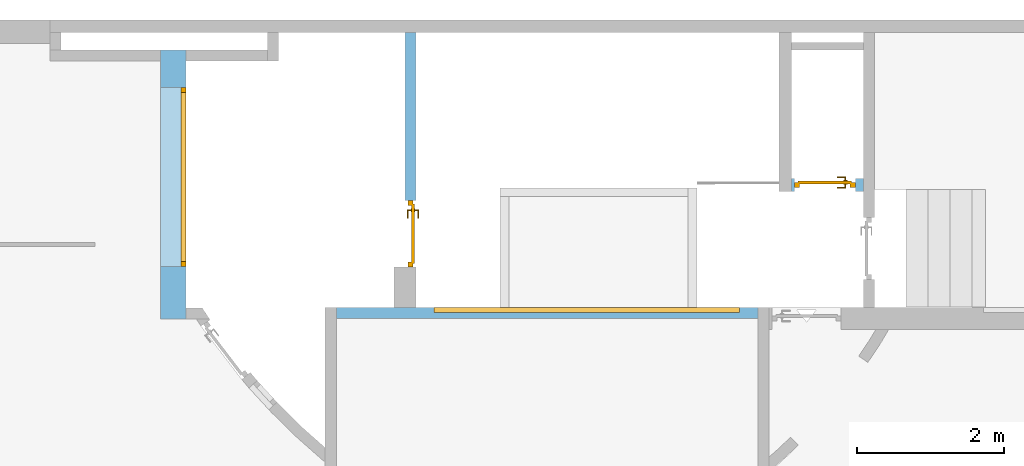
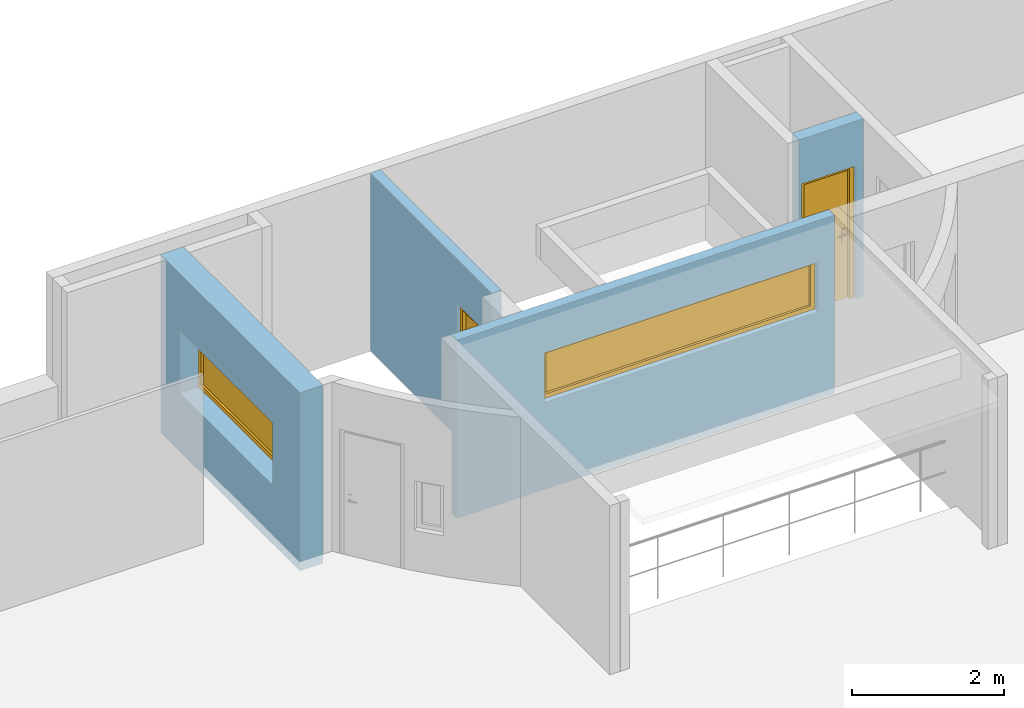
"""IFC4 building model written with IfcOpenShell, lengths in metres."""

from ifc_helpers import new_model, entity, si_unit, converted_unit, derived_unit, frame, frame_2d, origin, origin_with_axes, place, context, subcontext, project, spatial, polyline, rectangle, outline, extrude, closed_shell, open_shell, faceted_brep, surface_model, source, transform, mapped, material, layer, layer_set, layer_usage, element, fill, save


model = new_model("IFC4")

# Units and contexts
model_context = context("Model", 3, precision=1e-05, world=origin())
body_context = subcontext(model_context, "Body", "Model", "MODEL_VIEW")
ifc_project = project(units=[si_unit("LENGTHUNIT", "METRE"), si_unit("AREAUNIT", "SQUARE_METRE"), si_unit("VOLUMEUNIT", "CUBIC_METRE"), si_unit("MASSUNIT", "GRAM", prefix="KILO"), converted_unit("PLANEANGLEUNIT", "DEGREE", entity("IfcPlaneAngleMeasure", 0.0174532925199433), si_unit("PLANEANGLEUNIT", "RADIAN"), dimensions=[0, 0, 0, 0, 0, 0, 0]), derived_unit("THERMALTRANSMITTANCEUNIT", [(si_unit("POWERUNIT", "WATT"), 1), (si_unit("THERMODYNAMICTEMPERATUREUNIT", "KELVIN"), -1), (si_unit("LENGTHUNIT", "METRE"), -2)]), derived_unit("VOLUMETRICFLOWRATEUNIT", [(si_unit("LENGTHUNIT", "METRE"), 3), (converted_unit("TIMEUNIT", "hour", entity("IfcTimeMeasure", 3600.0), si_unit("TIMEUNIT", "SECOND"), dimensions=[0, 0, 1, 0, 0, 0, 0]), -1), (si_unit("LENGTHUNIT", "METRE"), -1)])], contexts=[model_context])

# Building, storeys
building_placement = place(None, origin())
building = spatial("IfcBuilding", under=ifc_project, at=building_placement, Name="HABITATGE PLURIFAMILIAR", CompositionType="ELEMENT")
storey_1_placement = place(building_placement, frame((0.0, 0.0, 21.2)))
storey_1 = spatial("IfcBuildingStorey", under=building, at=storey_1_placement, Name="PLANTA SOTACOBERTA", CompositionType="ELEMENT", Elevation=21.2)
storey_2_placement = place(storey_1_placement, origin())
storey_2 = spatial("IfcBuildingStorey", under=storey_1, at=storey_2_placement, Name="NOU", CompositionType="PARTIAL")

# Wall, opening, window
ifc_material_1 = material()
ifc_layer_1 = layer(ifc_material_1, 0.15)
ifc_layer_set_1 = layer_set([ifc_layer_1])
ifc_layer_usage_1 = layer_usage(ifc_layer_set_1, "AXIS2", "POSITIVE", 0.0)
wall_1_placement = place(storey_2_placement, frame((409.744883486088, 24.1595914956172, 0.0)))
wall_1 = element("IfcWall", 1, at=wall_1_placement, inside=storey_2, material=ifc_layer_usage_1, Name="Mur PSC", context=body_context, shape_type="SweptSolid", body=[
    extrude(rectangle(XDim=5.74204814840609, YDim=0.15, at=frame_2d((2.87102407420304, 0.075), x_axis=(1.0, 0.0))), origin_with_axes(), (0.0, 0.0, 1.0), 2.87),
])
opening_1_placement = place(wall_1_placement, frame((1.33204814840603, 0.0, 1.4), z_axis=(0.0, 1.0, 0.0), x_axis=(0.0, 0.0, 1.0)))
opening_1 = element("IfcOpeningElement", 2, at=opening_1_placement, cuts=wall_1, Name="Vano ventana", ObjectType="Opening", context=body_context, shape_type="SweptSolid", body=[
    extrude(outline(polyline([(0.8, 4.16), (0.8, 0.0), (0.0, 0.0), (0.0, 4.16), (0.8, 4.16)])), origin_with_axes(), (0.0, 0.0, 1.0), 0.15),
])
shared_shape_1 = source(origin_with_axes(), body_context, "Body", "SurfaceModel", [
    surface_model("IfcShellBasedSurfaceModel", [(0.0, 0.0, 0.8), (0.07, 0.0, 0.8), (0.07, 0.0, 0.0), (0.0, 0.0, 0.0), (0.0, 0.07, 0.0), (0.07, 0.07, 0.0), (0.07, 0.07, 0.8), (0.0, 0.07, 0.8)], [closed_shell([[[0, 1, 2, 3]], [[4, 5, 6, 7]], [[3, 4, 7, 0]], [[2, 5, 4, 3]], [[1, 6, 5, 2]], [[0, 7, 6, 1]]], orient=[[False], [False], [False], [False], [False], [False]])]),
    surface_model("IfcShellBasedSurfaceModel", [(4.09, 0.0, 0.8), (4.16, 0.0, 0.8), (4.16, 0.0, 0.0), (4.09, 0.0, 0.0), (4.09, 0.07, 0.0), (4.16, 0.07, 0.0), (4.16, 0.07, 0.8), (4.09, 0.07, 0.8)], [closed_shell([[[0, 1, 2, 3]], [[4, 5, 6, 7]], [[3, 4, 7, 0]], [[2, 5, 4, 3]], [[1, 6, 5, 2]], [[0, 7, 6, 1]]], orient=[[False], [False], [False], [False], [False], [False]])]),
    surface_model("IfcShellBasedSurfaceModel", [(0.07, 0.0, 0.07), (4.09, 0.0, 0.07), (4.09, 0.0, 0.0), (0.07, 0.0, 0.0), (0.07, 0.07, 0.0), (4.09, 0.07, 0.0), (4.09, 0.07, 0.07), (0.07, 0.07, 0.07)], [closed_shell([[[0, 1, 2, 3]], [[4, 5, 6, 7]], [[3, 4, 7, 0]], [[2, 5, 4, 3]], [[1, 6, 5, 2]], [[0, 7, 6, 1]]], orient=[[False], [False], [False], [False], [False], [False]])]),
    surface_model("IfcShellBasedSurfaceModel", [(0.07, 0.0, 0.8), (4.09, 0.0, 0.8), (4.09, 0.0, 0.73), (0.07, 0.0, 0.73), (0.07, 0.07, 0.73), (4.09, 0.07, 0.73), (4.09, 0.07, 0.8), (0.07, 0.07, 0.8)], [closed_shell([[[0, 1, 2, 3]], [[4, 5, 6, 7]], [[3, 4, 7, 0]], [[2, 5, 4, 3]], [[1, 6, 5, 2]], [[0, 7, 6, 1]]], orient=[[False], [False], [False], [False], [False], [False]])]),
    surface_model("IfcShellBasedSurfaceModel", [(0.07, 0.035, 0.07), (0.07, 0.035, 0.73), (4.09, 0.035, 0.73), (4.09, 0.035, 0.07)], [open_shell([[[0, 1, 2, 3]]], orient=[[False]])]),
])
window_1_placement = place(opening_1_placement, frame((0.0, 0.0, 0.08), z_axis=(1.0, 0.0, 0.0), x_axis=(0.0, 1.0, 0.0)))
window_1 = element("IfcWindow", 3, at=window_1_placement, inside=storey_2, Name="Finestra PSC", OverallHeight=0.8, OverallWidth=4.16, PartitioningType="USERDEFINED", PredefinedType="WINDOW", context=body_context, shape_type="MappedRepresentation", body=[
    mapped(shared_shape_1, transform((0.0, 0.0, 0.0), x_axis=(1.0, 0.0, 0.0), y_axis=(0.0, 1.0, 0.0), z_axis=(0.0, 0.0, 1.0), scale=1.0)),
])
fill(opening_1, window_1)

ifc_material_2 = material()
ifc_layer_2 = layer(ifc_material_2, 0.35)
ifc_layer_set_2 = layer_set([ifc_layer_2])
ifc_layer_usage_2 = layer_usage(ifc_layer_set_2, "AXIS2", "POSITIVE", 0.0)
wall_2_placement = place(storey_2_placement, frame((407.346855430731, 27.8195954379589, 0.0), z_axis=(0.0, 0.0, 1.0), x_axis=(0.0, -1.0, 0.0)))
wall_2 = element("IfcWall", 4, at=wall_2_placement, inside=storey_2, material=ifc_layer_usage_2, Name="Mur PSC", context=body_context, shape_type="SweptSolid", body=[
    extrude(rectangle(XDim=3.67000394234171, YDim=0.35, at=frame_2d((1.83500197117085, 0.175), x_axis=(1.0, 0.0))), origin_with_axes(), (0.0, 0.0, 1.0), 2.87),
])
opening_2_placement = place(wall_2_placement, frame((0.510003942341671, 0.0, 0.95), z_axis=(0.0, 1.0, 0.0), x_axis=(0.0, 0.0, 1.0)))
opening_2 = element("IfcOpeningElement", 5, at=opening_2_placement, cuts=wall_2, Name="Vano finestra PSC", ObjectType="Opening", context=body_context, shape_type="SweptSolid", body=[
    extrude(outline(polyline([(1.0, 2.44), (1.0, 0.0), (0.0, 0.0), (0.0, 2.44), (1.0, 2.44)])), origin_with_axes(), (0.0, 0.0, 1.0), 0.35),
])
shared_shape_2 = source(origin_with_axes(), body_context, "Body", "SurfaceModel", [
    surface_model("IfcShellBasedSurfaceModel", [(2.44000000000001, 0.0, 1.0), (2.44000000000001, 0.0, 0.0), (2.37000000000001, 0.0, 0.0), (2.37000000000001, 0.0, 1.0), (2.44000000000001, 0.0699999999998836, 0.0), (2.44000000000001, 0.0699999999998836, 1.0), (2.37000000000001, 0.0699999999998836, 1.0), (2.37000000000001, 0.0699999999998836, 0.0)], [closed_shell([[[0, 1, 2, 3]], [[4, 5, 6, 7]], [[1, 0, 5, 4]], [[2, 1, 4, 7]], [[3, 2, 7, 6]], [[0, 3, 6, 5]]], orient=[[False], [False], [False], [False], [False], [False]])]),
    surface_model("IfcShellBasedSurfaceModel", [(0.0700000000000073, 0.0, 1.0), (0.0700000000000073, 0.0, 0.0), (0.0, 0.0, 0.0), (0.0, 0.0, 1.0), (0.0700000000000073, 0.0699999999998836, 0.0), (0.0700000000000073, 0.0699999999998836, 1.0), (0.0, 0.0699999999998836, 1.0), (0.0, 0.0699999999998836, 0.0)], [closed_shell([[[0, 1, 2, 3]], [[4, 5, 6, 7]], [[1, 0, 5, 4]], [[2, 1, 4, 7]], [[3, 2, 7, 6]], [[0, 3, 6, 5]]], orient=[[False], [False], [False], [False], [False], [False]])]),
    surface_model("IfcShellBasedSurfaceModel", [(2.37000000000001, 0.0, 0.07), (2.37000000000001, 0.0, 0.0), (0.0700000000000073, 0.0, 0.0), (0.0700000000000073, 0.0, 0.07), (2.37000000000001, 0.0699999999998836, 0.0), (2.37000000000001, 0.0699999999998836, 0.07), (0.0700000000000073, 0.0699999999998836, 0.07), (0.0700000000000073, 0.0699999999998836, 0.0)], [closed_shell([[[0, 1, 2, 3]], [[4, 5, 6, 7]], [[1, 0, 5, 4]], [[2, 1, 4, 7]], [[3, 2, 7, 6]], [[0, 3, 6, 5]]], orient=[[False], [False], [False], [False], [False], [False]])]),
    surface_model("IfcShellBasedSurfaceModel", [(2.37000000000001, 0.0, 1.0), (2.37000000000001, 0.0, 0.93), (0.0700000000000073, 0.0, 0.93), (0.0700000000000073, 0.0, 1.0), (2.37000000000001, 0.0699999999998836, 0.93), (2.37000000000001, 0.0699999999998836, 1.0), (0.0700000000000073, 0.0699999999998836, 1.0), (0.0700000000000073, 0.0699999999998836, 0.93)], [closed_shell([[[0, 1, 2, 3]], [[4, 5, 6, 7]], [[1, 0, 5, 4]], [[2, 1, 4, 7]], [[3, 2, 7, 6]], [[0, 3, 6, 5]]], orient=[[False], [False], [False], [False], [False], [False]])]),
    surface_model("IfcShellBasedSurfaceModel", [(2.37000000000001, 0.0349999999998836, 0.07), (0.0700000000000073, 0.0349999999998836, 0.07), (0.0700000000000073, 0.0349999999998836, 0.93), (2.37000000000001, 0.0349999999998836, 0.93)], [open_shell([[[0, 1, 2, 3]]], orient=[[False]])]),
])
window_2_placement = place(opening_2_placement, frame((0.0, 0.0, 0.28), z_axis=(1.0, 0.0, 0.0), x_axis=(0.0, 1.0, 0.0)))
window_2 = element("IfcWindow", 6, at=window_2_placement, inside=storey_2, Name="Finestra PSC", OverallHeight=1.0, OverallWidth=2.44, PartitioningType="USERDEFINED", PredefinedType="WINDOW", context=body_context, shape_type="MappedRepresentation", body=[
    mapped(shared_shape_2, transform((0.0, 0.0, 0.0), x_axis=(1.0, 0.0, 0.0), y_axis=(0.0, 1.0, 0.0), z_axis=(0.0, 0.0, 1.0), scale=1.0)),
])
fill(opening_2, window_2)

# Wall, opening, door
ifc_material_3 = material()
ifc_layer_3 = layer(ifc_material_3, 0.15)
ifc_layer_set_3 = layer_set([ifc_layer_3])
ifc_layer_usage_3 = layer_usage(ifc_layer_set_3, "AXIS2", "POSITIVE", 0.0)
wall_3_placement = place(storey_2_placement, frame((410.826931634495, 24.859595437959, 0.0), z_axis=(0.0, 0.0, 1.0), x_axis=(0.0, 1.0, 0.0)))
wall_3 = element("IfcWall", 7, at=wall_3_placement, inside=storey_2, material=ifc_layer_usage_3, Name="Evans PSC", context=body_context, shape_type="SweptSolid", body=[
    extrude(rectangle(XDim=3.19865246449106, YDim=0.15, at=frame_2d((1.59932623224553, 0.075), x_axis=(1.0, 0.0))), origin_with_axes(), (0.0, 0.0, 1.0), 2.87),
])
opening_3_placement = place(wall_3_placement, frame((0.909996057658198, 0.15, 0.0), z_axis=(0.0, -1.0, 0.0), x_axis=(0.0, 0.0, 1.0)))
opening_3 = element("IfcOpeningElement", 8, at=opening_3_placement, cuts=wall_3, Name="Vano porta PSC", ObjectType="Opening", context=body_context, shape_type="SweptSolid", body=[
    extrude(outline(polyline([(2.15, 0.909996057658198), (2.15, 0.0), (0.0, 0.0), (0.0, 0.909996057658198), (2.15, 0.909996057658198)])), origin_with_axes(), (0.0, 0.0, 1.0), 0.15),
])
shared_shape_3 = source(origin_with_axes(), body_context, "Body", "Brep", [
    faceted_brep([(0.0, 0.0699999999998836, 2.15), (0.0, 0.0699999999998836, 0.0), (0.0700000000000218, 0.0699999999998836, 0.0), (0.0700000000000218, 0.0699999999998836, 2.15), (0.0, 0.0, 0.0), (0.0, 0.0, 2.15), (0.0700000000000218, 0.0, 2.15), (0.0700000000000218, 0.0, 0.0)], [[[0, 1, 2, 3]], [[4, 5, 6, 7]], [[1, 0, 5, 4]], [[2, 1, 4, 7]], [[3, 2, 7, 6]], [[0, 3, 6, 5]]], orient=[[False], [False], [False], [False], [False], [False]]),
    faceted_brep([(0.839996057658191, 0.0699999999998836, 2.15), (0.839996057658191, 0.0699999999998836, 0.0), (0.909996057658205, 0.0699999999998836, 0.0), (0.909996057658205, 0.0699999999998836, 2.15), (0.839996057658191, 0.0, 0.0), (0.839996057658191, 0.0, 2.15), (0.909996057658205, 0.0, 2.15), (0.909996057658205, 0.0, 0.0)], [[[0, 1, 2, 3]], [[4, 5, 6, 7]], [[1, 0, 5, 4]], [[2, 1, 4, 7]], [[3, 2, 7, 6]], [[0, 3, 6, 5]]], orient=[[False], [False], [False], [False], [False], [False]]),
    faceted_brep([(0.0700000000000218, 0.0699999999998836, 2.15), (0.0700000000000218, 0.0699999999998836, 2.08), (0.839996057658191, 0.0699999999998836, 2.08), (0.839996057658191, 0.0699999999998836, 2.15), (0.0700000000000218, 0.0, 2.08), (0.0700000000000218, 0.0, 2.15), (0.839996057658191, 0.0, 2.15), (0.839996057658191, 0.0, 2.08)], [[[0, 1, 2, 3]], [[4, 5, 6, 7]], [[1, 0, 5, 4]], [[2, 1, 4, 7]], [[3, 2, 7, 6]], [[0, 3, 6, 5]]], orient=[[False], [False], [False], [False], [False], [False]]),
    faceted_brep([(0.0500000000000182, 0.0899999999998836, 2.1), (0.0500000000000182, 0.0899999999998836, 0.0), (0.859996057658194, 0.0899999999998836, 0.0), (0.859996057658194, 0.0899999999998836, 2.1), (0.0500000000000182, 0.0499999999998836, 0.0), (0.0500000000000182, 0.0499999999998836, 2.1), (0.859996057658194, 0.0499999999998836, 2.1), (0.859996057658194, 0.0499999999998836, 0.0)], [[[0, 1, 2, 3]], [[4, 5, 6, 7]], [[1, 0, 5, 4]], [[2, 1, 4, 7]], [[3, 2, 7, 6]], [[0, 3, 6, 5]]], orient=[[False], [False], [False], [False], [False], [False]]),
    faceted_brep([(0.110000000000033, 0.0499999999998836, 1.125), (0.110000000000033, 0.0499999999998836, 0.91), (0.160000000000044, 0.0499999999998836, 0.91), (0.160000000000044, 0.0499999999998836, 1.125), (0.110000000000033, 0.0399999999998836, 0.91), (0.110000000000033, 0.0399999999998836, 1.125), (0.160000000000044, 0.0399999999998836, 1.125), (0.160000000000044, 0.0399999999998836, 0.91)], [[[0, 1, 2, 3]], [[4, 5, 6, 7]], [[1, 0, 5, 4]], [[2, 1, 4, 7]], [[3, 2, 7, 6]], [[0, 3, 6, 5]]], orient=[[False], [False], [False], [False], [False], [False]]),
    faceted_brep([(0.135000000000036, 0.0399999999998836, 1.06), (0.130000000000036, 0.0399999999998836, 1.05866025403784), (0.126339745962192, 0.0399999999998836, 1.055), (0.125000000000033, 0.0399999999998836, 1.05), (0.126339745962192, 0.0399999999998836, 1.045), (0.130000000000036, 0.0399999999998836, 1.04133974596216), (0.135000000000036, 0.0399999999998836, 1.04), (0.140000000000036, 0.0399999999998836, 1.04133974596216), (0.143660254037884, 0.0399999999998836, 1.045), (0.14500000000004, 0.0399999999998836, 1.05), (0.143660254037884, 0.0399999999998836, 1.055), (0.140000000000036, 0.0399999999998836, 1.05866025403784), (0.135000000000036, 0.0, 1.06), (0.130000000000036, -0.00500000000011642, 1.05866025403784), (0.126339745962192, -0.00866025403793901, 1.055), (0.125000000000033, -0.0100000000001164, 1.05), (0.126339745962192, -0.00866025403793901, 1.045), (0.130000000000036, -0.00500000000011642, 1.04133974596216), (0.135000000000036, 0.0, 1.04), (0.140000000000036, 0.00499999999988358, 1.04133974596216), (0.143660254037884, 0.00866025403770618, 1.045), (0.14500000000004, 0.00999999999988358, 1.05), (0.143660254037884, 0.00866025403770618, 1.055), (0.140000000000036, 0.00499999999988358, 1.05866025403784), (0.250000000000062, 0.0, 1.06), (0.250000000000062, 0.00499999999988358, 1.05866025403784), (0.250000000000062, 0.00866025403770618, 1.055), (0.250000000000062, 0.00999999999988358, 1.05), (0.250000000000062, 0.00866025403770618, 1.045), (0.250000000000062, 0.00499999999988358, 1.04133974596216), (0.250000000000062, 0.0, 1.04), (0.250000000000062, -0.00500000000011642, 1.04133974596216), (0.250000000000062, -0.00866025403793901, 1.045), (0.250000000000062, -0.0100000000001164, 1.05), (0.250000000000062, -0.00866025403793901, 1.055), (0.250000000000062, -0.00500000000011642, 1.05866025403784)], [[[0, 1, 2, 3, 4, 5, 6, 7, 8, 9, 10, 11]], [[0, 12, 13, 1]], [[1, 13, 14, 2]], [[2, 14, 15, 3]], [[3, 15, 16, 4]], [[4, 16, 17, 5]], [[5, 17, 18, 6]], [[6, 18, 19, 7]], [[7, 19, 20, 8]], [[8, 20, 21, 9]], [[9, 21, 22, 10]], [[10, 22, 23, 11]], [[11, 23, 12, 0]], [[24, 25, 26, 27, 28, 29, 30, 31, 32, 33, 34, 35]], [[12, 24, 35, 13]], [[13, 35, 34, 14]], [[14, 34, 33, 15]], [[15, 33, 32, 16]], [[16, 32, 31, 17]], [[17, 31, 30, 18]], [[18, 30, 29, 19]], [[19, 29, 28, 20]], [[20, 28, 27, 21]], [[21, 27, 26, 22]], [[22, 26, 25, 23]], [[23, 25, 24, 12]]], orient=[[False], [False], [False], [False], [False], [False], [False], [False], [False], [False], [False], [False], [False], [False], [False], [False], [False], [False], [False], [False], [False], [False], [False], [False], [False], [False]]),
    faceted_brep([(0.110000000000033, 0.0899999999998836, 1.125), (0.160000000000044, 0.0899999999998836, 1.125), (0.160000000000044, 0.0899999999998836, 0.91), (0.110000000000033, 0.0899999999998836, 0.91), (0.110000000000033, 0.0999999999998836, 0.91), (0.160000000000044, 0.0999999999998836, 0.91), (0.160000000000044, 0.0999999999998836, 1.125), (0.110000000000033, 0.0999999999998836, 1.125)], [[[0, 1, 2, 3]], [[4, 5, 6, 7]], [[3, 4, 7, 0]], [[2, 5, 4, 3]], [[1, 6, 5, 2]], [[0, 7, 6, 1]]], orient=[[False], [False], [False], [False], [False], [False]]),
    faceted_brep([(0.135000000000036, 0.0999999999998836, 1.06), (0.140000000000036, 0.0999999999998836, 1.05866025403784), (0.143660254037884, 0.0999999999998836, 1.055), (0.14500000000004, 0.0999999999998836, 1.05), (0.143660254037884, 0.0999999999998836, 1.045), (0.140000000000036, 0.0999999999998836, 1.04133974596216), (0.135000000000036, 0.0999999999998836, 1.04), (0.130000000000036, 0.0999999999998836, 1.04133974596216), (0.126339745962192, 0.0999999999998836, 1.045), (0.125000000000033, 0.0999999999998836, 1.05), (0.126339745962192, 0.0999999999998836, 1.055), (0.130000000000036, 0.0999999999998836, 1.05866025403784), (0.130000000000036, 0.144999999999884, 1.05866025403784), (0.135000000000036, 0.139999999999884, 1.06), (0.126339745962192, 0.148660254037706, 1.055), (0.125000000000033, 0.149999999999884, 1.05), (0.126339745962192, 0.148660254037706, 1.045), (0.130000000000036, 0.144999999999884, 1.04133974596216), (0.135000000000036, 0.139999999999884, 1.04), (0.140000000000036, 0.134999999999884, 1.04133974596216), (0.143660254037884, 0.131339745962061, 1.045), (0.14500000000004, 0.129999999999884, 1.05), (0.143660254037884, 0.131339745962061, 1.055), (0.140000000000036, 0.134999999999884, 1.05866025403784), (0.250000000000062, 0.139999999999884, 1.06), (0.250000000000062, 0.144999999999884, 1.05866025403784), (0.250000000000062, 0.148660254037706, 1.055), (0.250000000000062, 0.149999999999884, 1.05), (0.250000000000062, 0.148660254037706, 1.045), (0.250000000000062, 0.144999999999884, 1.04133974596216), (0.250000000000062, 0.139999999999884, 1.04), (0.250000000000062, 0.134999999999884, 1.04133974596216), (0.250000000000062, 0.131339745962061, 1.045), (0.250000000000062, 0.129999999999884, 1.05), (0.250000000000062, 0.131339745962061, 1.055), (0.250000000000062, 0.134999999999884, 1.05866025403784)], [[[0, 1, 2, 3, 4, 5, 6, 7, 8, 9, 10, 11]], [[0, 11, 12, 13]], [[11, 10, 14, 12]], [[10, 9, 15, 14]], [[9, 8, 16, 15]], [[8, 7, 17, 16]], [[7, 6, 18, 17]], [[6, 5, 19, 18]], [[5, 4, 20, 19]], [[4, 3, 21, 20]], [[3, 2, 22, 21]], [[2, 1, 23, 22]], [[1, 0, 13, 23]], [[24, 25, 26, 27, 28, 29, 30, 31, 32, 33, 34, 35]], [[13, 12, 25, 24]], [[12, 14, 26, 25]], [[14, 15, 27, 26]], [[15, 16, 28, 27]], [[16, 17, 29, 28]], [[17, 18, 30, 29]], [[18, 19, 31, 30]], [[19, 20, 32, 31]], [[20, 21, 33, 32]], [[21, 22, 34, 33]], [[22, 23, 35, 34]], [[23, 13, 24, 35]]], orient=[[False], [False], [False], [False], [False], [False], [False], [False], [False], [False], [False], [False], [False], [False], [False], [False], [False], [False], [False], [False], [False], [False], [False], [False], [False], [False]]),
])
door_1_placement = place(opening_3_placement, frame((0.0, 0.0, 0.04), z_axis=(1.0, 0.0, 0.0), x_axis=(0.0, 1.0, 0.0)))
door_1 = element("IfcDoor", 9, at=door_1_placement, inside=storey_2, Name="Porta PSC", OperationType="USERDEFINED", OverallHeight=2.15, OverallWidth=0.91, PredefinedType="DOOR", context=body_context, shape_type="MappedRepresentation", body=[
    mapped(shared_shape_3, transform((0.0, 0.0, 0.0), x_axis=(1.0, 0.0, 0.0), y_axis=(0.0, 1.0, 0.0), z_axis=(0.0, 0.0, 1.0), scale=1.0)),
])
fill(opening_3, door_1)

ifc_material_4 = material()
ifc_layer_4 = layer(ifc_material_4, 0.18)
ifc_layer_set_4 = layer_set([ifc_layer_4])
ifc_layer_usage_4 = layer_usage(ifc_layer_set_4, "AXIS2", "POSITIVE", 0.0)
wall_4_placement = place(storey_2_placement, frame((415.946931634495, 25.8895914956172, 0.0)))
wall_4 = element("IfcWall", 10, at=wall_4_placement, inside=storey_2, material=ifc_layer_usage_4, Name="Evans PSC", context=body_context, shape_type="SweptSolid", body=[
    extrude(rectangle(XDim=0.979999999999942, YDim=0.18, at=frame_2d((0.489999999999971, 0.09), x_axis=(1.0, 0.0))), origin_with_axes(), (0.0, 0.0, 1.0), 2.87),
])
opening_4_placement = place(wall_4_placement, frame((0.0399999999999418, 0.0, 0.0), z_axis=(0.0, 1.0, 0.0), x_axis=(0.0, 0.0, 1.0)))
opening_4 = element("IfcOpeningElement", 11, at=opening_4_placement, cuts=wall_4, Name="Vano porta PSC", ObjectType="Opening", context=body_context, shape_type="SweptSolid", body=[
    extrude(outline(polyline([(2.15, 0.83), (2.15, 0.0), (0.0, 0.0), (0.0, 0.83), (2.15, 0.83)])), origin_with_axes(), (0.0, 0.0, 1.0), 0.18),
])
shared_shape_4 = source(origin_with_axes(), body_context, "Body", "Brep", [
    faceted_brep([(0.83, 0.07, 2.15), (0.76, 0.07, 2.15), (0.76, 0.07, 0.0), (0.83, 0.07, 0.0), (0.83, 0.0, 0.0), (0.76, 0.0, 0.0), (0.76, 0.0, 2.15), (0.83, 0.0, 2.15)], [[[0, 1, 2, 3]], [[4, 5, 6, 7]], [[3, 4, 7, 0]], [[2, 5, 4, 3]], [[1, 6, 5, 2]], [[0, 7, 6, 1]]], orient=[[False], [False], [False], [False], [False], [False]]),
    faceted_brep([(0.07, 0.07, 2.15), (0.0, 0.07, 2.15), (0.0, 0.07, 0.0), (0.07, 0.07, 0.0), (0.07, 0.0, 0.0), (0.0, 0.0, 0.0), (0.0, 0.0, 2.15), (0.07, 0.0, 2.15)], [[[0, 1, 2, 3]], [[4, 5, 6, 7]], [[3, 4, 7, 0]], [[2, 5, 4, 3]], [[1, 6, 5, 2]], [[0, 7, 6, 1]]], orient=[[False], [False], [False], [False], [False], [False]]),
    faceted_brep([(0.76, 0.07, 2.15), (0.07, 0.07, 2.15), (0.07, 0.07, 2.08), (0.76, 0.07, 2.08), (0.76, 0.0, 2.08), (0.07, 0.0, 2.08), (0.07, 0.0, 2.15), (0.76, 0.0, 2.15)], [[[0, 1, 2, 3]], [[4, 5, 6, 7]], [[3, 4, 7, 0]], [[2, 5, 4, 3]], [[1, 6, 5, 2]], [[0, 7, 6, 1]]], orient=[[False], [False], [False], [False], [False], [False]]),
    faceted_brep([(0.78, 0.09, 2.1), (0.05, 0.09, 2.1), (0.05, 0.09, 0.0), (0.78, 0.09, 0.0), (0.78, 0.05, 0.0), (0.05, 0.05, 0.0), (0.05, 0.05, 2.1), (0.78, 0.05, 2.1)], [[[0, 1, 2, 3]], [[4, 5, 6, 7]], [[3, 4, 7, 0]], [[2, 5, 4, 3]], [[1, 6, 5, 2]], [[0, 7, 6, 1]]], orient=[[False], [False], [False], [False], [False], [False]]),
    faceted_brep([(0.72, 0.05, 1.125), (0.67, 0.05, 1.125), (0.67, 0.05, 0.91), (0.72, 0.05, 0.91), (0.72, 0.04, 0.91), (0.67, 0.04, 0.91), (0.67, 0.04, 1.125), (0.72, 0.04, 1.125)], [[[0, 1, 2, 3]], [[4, 5, 6, 7]], [[3, 4, 7, 0]], [[2, 5, 4, 3]], [[1, 6, 5, 2]], [[0, 7, 6, 1]]], orient=[[False], [False], [False], [False], [False], [False]]),
    faceted_brep([(0.695, 0.04, 1.06), (0.69, 0.04, 1.05866025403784), (0.686339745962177, 0.04, 1.055), (0.685, 0.04, 1.05), (0.686339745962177, 0.04, 1.045), (0.69, 0.04, 1.04133974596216), (0.695, 0.04, 1.04), (0.7, 0.04, 1.04133974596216), (0.703660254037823, 0.04, 1.045), (0.705, 0.04, 1.05), (0.703660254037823, 0.04, 1.055), (0.7, 0.04, 1.05866025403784), (0.7, -0.005, 1.05866025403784), (0.695, 0.0, 1.06), (0.703660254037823, -0.00866025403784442, 1.055), (0.705, -0.01, 1.05), (0.703660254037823, -0.00866025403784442, 1.045), (0.7, -0.005, 1.04133974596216), (0.695, 0.0, 1.04), (0.69, 0.005, 1.04133974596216), (0.686339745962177, 0.00866025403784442, 1.045), (0.685, 0.01, 1.05), (0.686339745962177, 0.00866025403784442, 1.055), (0.69, 0.005, 1.05866025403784), (0.58, 0.0, 1.06), (0.58, -0.005, 1.05866025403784), (0.58, -0.00866025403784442, 1.055), (0.58, -0.01, 1.05), (0.58, -0.00866025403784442, 1.045), (0.58, -0.005, 1.04133974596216), (0.58, 0.0, 1.04), (0.58, 0.005, 1.04133974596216), (0.58, 0.00866025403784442, 1.045), (0.58, 0.01, 1.05), (0.58, 0.00866025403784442, 1.055), (0.58, 0.005, 1.05866025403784)], [[[0, 1, 2, 3, 4, 5, 6, 7, 8, 9, 10, 11]], [[0, 11, 12, 13]], [[11, 10, 14, 12]], [[10, 9, 15, 14]], [[9, 8, 16, 15]], [[8, 7, 17, 16]], [[7, 6, 18, 17]], [[6, 5, 19, 18]], [[5, 4, 20, 19]], [[4, 3, 21, 20]], [[3, 2, 22, 21]], [[2, 1, 23, 22]], [[1, 0, 13, 23]], [[24, 25, 26, 27, 28, 29, 30, 31, 32, 33, 34, 35]], [[13, 12, 25, 24]], [[12, 14, 26, 25]], [[14, 15, 27, 26]], [[15, 16, 28, 27]], [[16, 17, 29, 28]], [[17, 18, 30, 29]], [[18, 19, 31, 30]], [[19, 20, 32, 31]], [[20, 21, 33, 32]], [[21, 22, 34, 33]], [[22, 23, 35, 34]], [[23, 13, 24, 35]]], orient=[[False], [False], [False], [False], [False], [False], [False], [False], [False], [False], [False], [False], [False], [False], [False], [False], [False], [False], [False], [False], [False], [False], [False], [False], [False], [False]]),
    faceted_brep([(0.72, 0.09, 1.125), (0.72, 0.09, 0.91), (0.67, 0.09, 0.91), (0.67, 0.09, 1.125), (0.72, 0.1, 0.91), (0.72, 0.1, 1.125), (0.67, 0.1, 1.125), (0.67, 0.1, 0.91)], [[[0, 1, 2, 3]], [[4, 5, 6, 7]], [[1, 0, 5, 4]], [[2, 1, 4, 7]], [[3, 2, 7, 6]], [[0, 3, 6, 5]]], orient=[[False], [False], [False], [False], [False], [False]]),
    faceted_brep([(0.695, 0.1, 1.06), (0.7, 0.1, 1.05866025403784), (0.703660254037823, 0.1, 1.055), (0.705, 0.1, 1.05), (0.703660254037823, 0.1, 1.045), (0.7, 0.1, 1.04133974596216), (0.695, 0.1, 1.04), (0.69, 0.1, 1.04133974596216), (0.686339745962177, 0.1, 1.045), (0.685, 0.1, 1.05), (0.686339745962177, 0.1, 1.055), (0.69, 0.1, 1.05866025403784), (0.695, 0.14, 1.06), (0.7, 0.145, 1.05866025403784), (0.703660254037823, 0.148660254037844, 1.055), (0.705, 0.15, 1.05), (0.703660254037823, 0.148660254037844, 1.045), (0.7, 0.145, 1.04133974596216), (0.695, 0.14, 1.04), (0.69, 0.135, 1.04133974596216), (0.686339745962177, 0.131339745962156, 1.045), (0.685, 0.13, 1.05), (0.686339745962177, 0.131339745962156, 1.055), (0.69, 0.135, 1.05866025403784), (0.58, 0.14, 1.06), (0.58, 0.135, 1.05866025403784), (0.58, 0.131339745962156, 1.055), (0.58, 0.13, 1.05), (0.58, 0.131339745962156, 1.045), (0.58, 0.135, 1.04133974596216), (0.58, 0.14, 1.04), (0.58, 0.145, 1.04133974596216), (0.58, 0.148660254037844, 1.045), (0.58, 0.15, 1.05), (0.58, 0.148660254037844, 1.055), (0.58, 0.145, 1.05866025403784)], [[[0, 1, 2, 3, 4, 5, 6, 7, 8, 9, 10, 11]], [[0, 12, 13, 1]], [[1, 13, 14, 2]], [[2, 14, 15, 3]], [[3, 15, 16, 4]], [[4, 16, 17, 5]], [[5, 17, 18, 6]], [[6, 18, 19, 7]], [[7, 19, 20, 8]], [[8, 20, 21, 9]], [[9, 21, 22, 10]], [[10, 22, 23, 11]], [[11, 23, 12, 0]], [[24, 25, 26, 27, 28, 29, 30, 31, 32, 33, 34, 35]], [[12, 24, 35, 13]], [[13, 35, 34, 14]], [[14, 34, 33, 15]], [[15, 33, 32, 16]], [[16, 32, 31, 17]], [[17, 31, 30, 18]], [[18, 30, 29, 19]], [[19, 29, 28, 20]], [[20, 28, 27, 21]], [[21, 27, 26, 22]], [[22, 26, 25, 23]], [[23, 25, 24, 12]]], orient=[[False], [False], [False], [False], [False], [False], [False], [False], [False], [False], [False], [False], [False], [False], [False], [False], [False], [False], [False], [False], [False], [False], [False], [False], [False], [False]]),
])
door_2_placement = place(opening_4_placement, frame((0.0, 0.0, 0.055), z_axis=(1.0, 0.0, 0.0), x_axis=(0.0, 1.0, 0.0)))
door_2 = element("IfcDoor", 12, at=door_2_placement, inside=storey_2, Name="Porta PSC", OperationType="USERDEFINED", OverallHeight=2.15, OverallWidth=0.83, PredefinedType="DOOR", context=body_context, shape_type="MappedRepresentation", body=[
    mapped(shared_shape_4, transform((0.0, 0.0, 0.0), x_axis=(1.0, 0.0, 0.0), y_axis=(0.0, 1.0, 0.0), z_axis=(0.0, 0.0, 1.0), scale=1.0)),
])
fill(opening_4, door_2)

save(model, "model.ifc")
